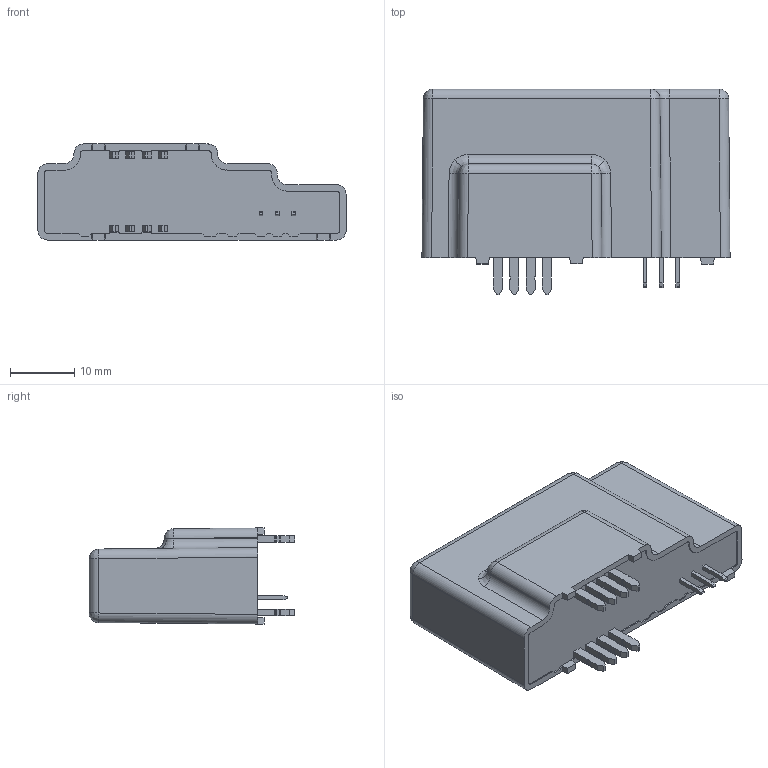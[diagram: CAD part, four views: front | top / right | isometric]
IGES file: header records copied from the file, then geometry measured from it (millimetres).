
Start section: Elysium IGES Interface
Global section: file name: C:\Users\pia\Desktop\wf\90.34.36.000.0.igs; native system: Creo Elements/Direct Modeling 20.3D  14-Nov-2022; preprocessor: Creo Element/Direct IGES_3D V2.2; author: Unknown; organization: Unknown; date: 20240219.233335; units: millimetre
Bounding box: 47.9 x 32 x 14.95 mm (x, y, z)
Volume: 14483.9 mm3; surface area: 4456.7 mm2
Topology: 1 solids, 1 shells, 413 faces, 1128 edges, 737 vertices
Faces by surface type: bspline 413
